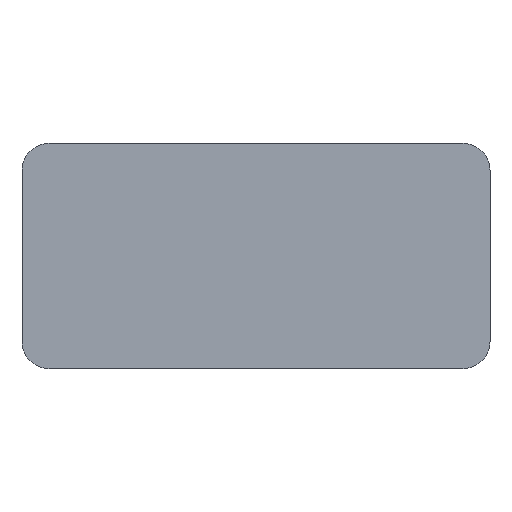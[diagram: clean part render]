
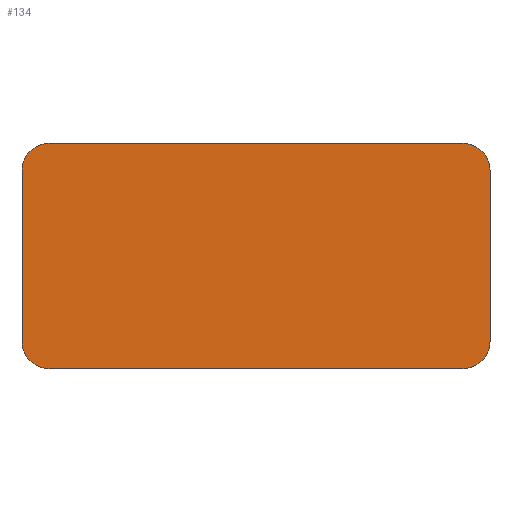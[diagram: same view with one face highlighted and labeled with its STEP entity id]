
A CAD part, top view. The second image highlights one B-rep face of the part: STEP entity #134.
In plain terms, the highlighted planar face has unit normal (0, 0, 1).
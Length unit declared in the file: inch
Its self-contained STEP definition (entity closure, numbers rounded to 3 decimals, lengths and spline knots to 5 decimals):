
#134=ADVANCED_FACE('',(#270),#271,.T.);
#270=FACE_OUTER_BOUND('',#473,.T.);
#271=PLANE('',#474);
#473=EDGE_LOOP('',(#800,#801,#802,#803,#804,#805,#806,#807));
#474=AXIS2_PLACEMENT_3D('',#808,#809,#810);
#800=ORIENTED_EDGE('',*,*,#933,.F.);
#801=ORIENTED_EDGE('',*,*,#955,.F.);
#802=ORIENTED_EDGE('',*,*,#1012,.F.);
#803=ORIENTED_EDGE('',*,*,#986,.F.);
#804=ORIENTED_EDGE('',*,*,#1003,.F.);
#805=ORIENTED_EDGE('',*,*,#990,.F.);
#806=ORIENTED_EDGE('',*,*,#1008,.F.);
#807=ORIENTED_EDGE('',*,*,#966,.F.);
#808=CARTESIAN_POINT('',(4.25421,5.5999,0.075));
#809=DIRECTION('',(0.0,0.0,1.0));
#810=DIRECTION('',(1.0,0.0,0.0));
#933=EDGE_CURVE('',#1134,#1135,#1136,.T.);
#955=EDGE_CURVE('',#1167,#1134,#1168,.T.);
#966=EDGE_CURVE('',#1135,#1183,#1184,.T.);
#986=EDGE_CURVE('',#1210,#1211,#1212,.T.);
#990=EDGE_CURVE('',#1216,#1217,#1218,.T.);
#1003=EDGE_CURVE('',#1217,#1210,#1232,.T.);
#1008=EDGE_CURVE('',#1183,#1216,#1238,.T.);
#1012=EDGE_CURVE('',#1211,#1167,#1242,.T.);
#1134=VERTEX_POINT('',#1422);
#1135=VERTEX_POINT('',#1423);
#1136=B_SPLINE_CURVE_WITH_KNOTS('',3,(#1424,#1425,#1426,#1427),.UNSPECIFIED.,.F.,.F.,(4,4),(-1.0,-0.0),.UNSPECIFIED.);
#1167=VERTEX_POINT('',#1475);
#1168=LINE('',#1476,#1477);
#1183=VERTEX_POINT('',#1503);
#1184=LINE('',#1504,#1505);
#1210=VERTEX_POINT('',#1555);
#1211=VERTEX_POINT('',#1556);
#1212=LINE('',#1557,#1558);
#1216=VERTEX_POINT('',#1564);
#1217=VERTEX_POINT('',#1565);
#1218=LINE('',#1566,#1567);
#1232=B_SPLINE_CURVE_WITH_KNOTS('',3,(#1593,#1594,#1595,#1596),.UNSPECIFIED.,.F.,.F.,(4,4),(-1.0,-0.0),.UNSPECIFIED.);
#1238=B_SPLINE_CURVE_WITH_KNOTS('',3,(#1604,#1605,#1606,#1607),.UNSPECIFIED.,.F.,.F.,(4,4),(-1.0,-0.0),.UNSPECIFIED.);
#1242=B_SPLINE_CURVE_WITH_KNOTS('',3,(#1612,#1613,#1614,#1615),.UNSPECIFIED.,.F.,.F.,(4,4),(-1.0,-0.0),.UNSPECIFIED.);
#1422=CARTESIAN_POINT('',(2.59805,6.20547,0.075));
#1423=CARTESIAN_POINT('',(2.78931,6.39672,0.075));
#1424=CARTESIAN_POINT('',(2.59805,6.20547,0.075));
#1425=CARTESIAN_POINT('',(2.59805,6.31108,0.075));
#1426=CARTESIAN_POINT('',(2.68368,6.39672,0.075));
#1427=CARTESIAN_POINT('',(2.78931,6.39672,0.075));
#1475=CARTESIAN_POINT('',(2.59805,4.99436,0.075));
#1476=CARTESIAN_POINT('',(2.59805,6.20547,0.075));
#1477=VECTOR('',#1720,1.0);
#1503=CARTESIAN_POINT('',(5.71912,6.39672,0.075));
#1504=CARTESIAN_POINT('',(5.71912,6.39672,0.075));
#1505=VECTOR('',#1726,1.0);
#1555=CARTESIAN_POINT('',(5.71913,4.80309,0.075));
#1556=CARTESIAN_POINT('',(2.78931,4.80309,0.075));
#1557=CARTESIAN_POINT('',(2.78931,4.80309,0.075));
#1558=VECTOR('',#1736,1.0);
#1564=CARTESIAN_POINT('',(5.91037,6.20547,0.075));
#1565=CARTESIAN_POINT('',(5.91037,4.99436,0.075));
#1566=CARTESIAN_POINT('',(5.91037,4.99436,0.075));
#1567=VECTOR('',#1739,1.0);
#1593=CARTESIAN_POINT('',(5.91037,4.99436,0.075));
#1594=CARTESIAN_POINT('',(5.91037,4.88873,0.075));
#1595=CARTESIAN_POINT('',(5.82476,4.80309,0.075));
#1596=CARTESIAN_POINT('',(5.71913,4.80309,0.075));
#1604=CARTESIAN_POINT('',(5.71912,6.39672,0.075));
#1605=CARTESIAN_POINT('',(5.82475,6.39672,0.075));
#1606=CARTESIAN_POINT('',(5.91037,6.31108,0.075));
#1607=CARTESIAN_POINT('',(5.91037,6.20547,0.075));
#1612=CARTESIAN_POINT('',(2.78931,4.80309,0.075));
#1613=CARTESIAN_POINT('',(2.68368,4.80309,0.075));
#1614=CARTESIAN_POINT('',(2.59805,4.88873,0.075));
#1615=CARTESIAN_POINT('',(2.59805,4.99436,0.075));
#1720=DIRECTION('',(0.0,1.0,0.0));
#1726=DIRECTION('',(1.0,0.0,0.0));
#1736=DIRECTION('',(-1.0,-0.0,-0.0));
#1739=DIRECTION('',(-0.0,-1.0,-0.0));
